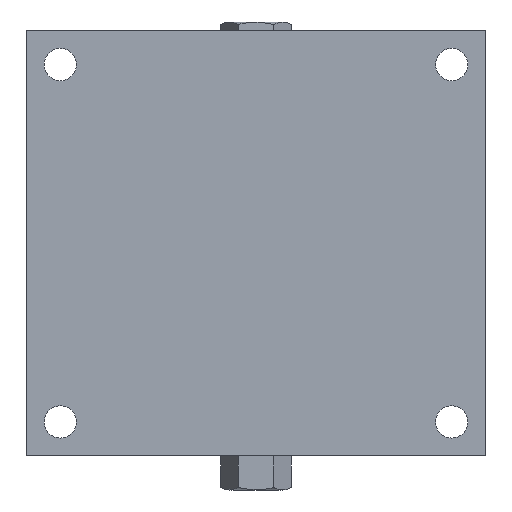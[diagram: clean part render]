
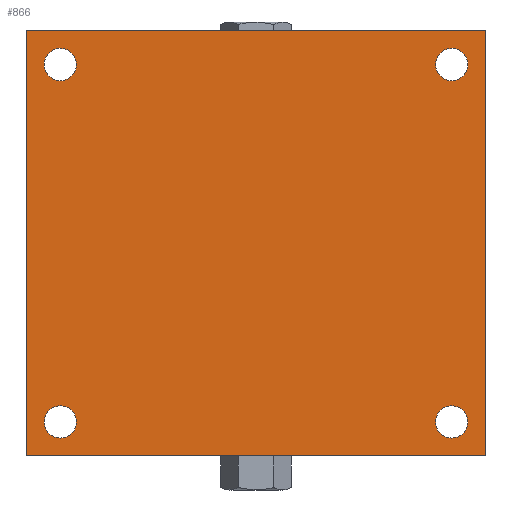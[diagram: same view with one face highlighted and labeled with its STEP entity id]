
A CAD part, front view. The second image highlights one B-rep face of the part: STEP entity #866.
In plain terms, the highlighted planar face has unit normal (0, -1, 0) as drawn and (0, 0, 1) by its records, which use the part's own axes.
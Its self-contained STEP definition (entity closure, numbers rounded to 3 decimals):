
#617=CARTESIAN_POINT('',(-90.07,161.926,20.));
#618=DIRECTION('',(0.,0.,-1.));
#619=DIRECTION('',(1.,0.,0.));
#620=AXIS2_PLACEMENT_3D('',#617,#618,#619);
#622=CARTESIAN_POINT('',(-90.07,161.926,20.));
#623=DIRECTION('',(0.,0.,-1.));
#624=DIRECTION('',(-1.,0.,0.));
#625=AXIS2_PLACEMENT_3D('',#622,#623,#624);
#627=CARTESIAN_POINT('',(139.93,161.926,20.));
#628=DIRECTION('',(0.,0.,-1.));
#629=DIRECTION('',(1.,0.,0.));
#630=AXIS2_PLACEMENT_3D('',#627,#628,#629);
#632=CARTESIAN_POINT('',(139.93,161.926,20.));
#633=DIRECTION('',(0.,0.,-1.));
#634=DIRECTION('',(-1.,0.,0.));
#635=AXIS2_PLACEMENT_3D('',#632,#633,#634);
#637=CARTESIAN_POINT('',(-90.07,-48.074,20.));
#638=DIRECTION('',(0.,0.,-1.));
#639=DIRECTION('',(1.,0.,0.));
#640=AXIS2_PLACEMENT_3D('',#637,#638,#639);
#642=CARTESIAN_POINT('',(-90.07,-48.074,20.));
#643=DIRECTION('',(0.,0.,-1.));
#644=DIRECTION('',(-1.,0.,0.));
#645=AXIS2_PLACEMENT_3D('',#642,#643,#644);
#647=CARTESIAN_POINT('',(139.93,-48.074,20.));
#648=DIRECTION('',(0.,0.,-1.));
#649=DIRECTION('',(1.,0.,0.));
#650=AXIS2_PLACEMENT_3D('',#647,#648,#649);
#652=CARTESIAN_POINT('',(139.93,-48.074,20.));
#653=DIRECTION('',(0.,0.,-1.));
#654=DIRECTION('',(-1.,0.,0.));
#655=AXIS2_PLACEMENT_3D('',#652,#653,#654);
#657=DIRECTION('',(0.,-1.,0.));
#658=VECTOR('',#657,250.);
#659=CARTESIAN_POINT('',(-110.07,181.926,20.));
#660=LINE('',#659,#658);
#661=DIRECTION('',(-1.,0.,0.));
#662=VECTOR('',#661,270.);
#663=CARTESIAN_POINT('',(159.93,181.926,20.));
#664=LINE('',#663,#662);
#665=DIRECTION('',(0.,1.,0.));
#666=VECTOR('',#665,250.);
#667=CARTESIAN_POINT('',(159.93,-68.074,20.));
#668=LINE('',#667,#666);
#669=DIRECTION('',(1.,0.,0.));
#670=VECTOR('',#669,270.);
#671=CARTESIAN_POINT('',(-110.07,-68.074,20.));
#672=LINE('',#671,#670);
#737=CARTESIAN_POINT('',(-80.57,161.926,20.));
#738=CARTESIAN_POINT('',(-99.57,161.926,20.));
#739=VERTEX_POINT('',#737);
#740=VERTEX_POINT('',#738);
#741=CARTESIAN_POINT('',(149.43,161.926,20.));
#742=CARTESIAN_POINT('',(130.43,161.926,20.));
#743=VERTEX_POINT('',#741);
#744=VERTEX_POINT('',#742);
#745=CARTESIAN_POINT('',(-80.57,-48.074,20.));
#746=CARTESIAN_POINT('',(-99.57,-48.074,20.));
#747=VERTEX_POINT('',#745);
#748=VERTEX_POINT('',#746);
#749=CARTESIAN_POINT('',(149.43,-48.074,20.));
#750=CARTESIAN_POINT('',(130.43,-48.074,20.));
#751=VERTEX_POINT('',#749);
#752=VERTEX_POINT('',#750);
#753=CARTESIAN_POINT('',(-110.07,181.926,20.));
#754=CARTESIAN_POINT('',(-110.07,-68.074,20.));
#755=VERTEX_POINT('',#753);
#756=VERTEX_POINT('',#754);
#757=CARTESIAN_POINT('',(159.93,-68.074,20.));
#758=VERTEX_POINT('',#757);
#759=CARTESIAN_POINT('',(159.93,181.926,20.));
#760=VERTEX_POINT('',#759);
#829=CARTESIAN_POINT('',(0.,0.,20.));
#830=DIRECTION('',(0.,0.,1.));
#831=DIRECTION('',(1.,0.,0.));
#832=AXIS2_PLACEMENT_3D('',#829,#830,#831);
#833=PLANE('',#832);
#835=ORIENTED_EDGE('',*,*,#834,.F.);
#837=ORIENTED_EDGE('',*,*,#836,.F.);
#839=ORIENTED_EDGE('',*,*,#838,.F.);
#841=ORIENTED_EDGE('',*,*,#840,.F.);
#842=EDGE_LOOP('',(#835,#837,#839,#841));
#843=FACE_OUTER_BOUND('',#842,.F.);
#845=ORIENTED_EDGE('',*,*,#844,.F.);
#847=ORIENTED_EDGE('',*,*,#846,.F.);
#848=EDGE_LOOP('',(#845,#847));
#849=FACE_BOUND('',#848,.F.);
#851=ORIENTED_EDGE('',*,*,#850,.F.);
#853=ORIENTED_EDGE('',*,*,#852,.F.);
#854=EDGE_LOOP('',(#851,#853));
#855=FACE_BOUND('',#854,.F.);
#857=ORIENTED_EDGE('',*,*,#856,.F.);
#859=ORIENTED_EDGE('',*,*,#858,.F.);
#860=EDGE_LOOP('',(#857,#859));
#861=FACE_BOUND('',#860,.F.);
#862=ORIENTED_EDGE('',*,*,#809,.F.);
#863=ORIENTED_EDGE('',*,*,#823,.F.);
#864=EDGE_LOOP('',(#862,#863));
#865=FACE_BOUND('',#864,.F.);
#621=CIRCLE('',#620,9.5);
#626=CIRCLE('',#625,9.5);
#631=CIRCLE('',#630,9.5);
#636=CIRCLE('',#635,9.5);
#641=CIRCLE('',#640,9.5);
#646=CIRCLE('',#645,9.5);
#651=CIRCLE('',#650,9.5);
#656=CIRCLE('',#655,9.5);
#809=EDGE_CURVE('',#739,#740,#621,.T.);
#823=EDGE_CURVE('',#740,#739,#626,.T.);
#834=EDGE_CURVE('',#755,#756,#660,.T.);
#836=EDGE_CURVE('',#760,#755,#664,.T.);
#838=EDGE_CURVE('',#758,#760,#668,.T.);
#840=EDGE_CURVE('',#756,#758,#672,.T.);
#844=EDGE_CURVE('',#743,#744,#631,.T.);
#846=EDGE_CURVE('',#744,#743,#636,.T.);
#850=EDGE_CURVE('',#747,#748,#641,.T.);
#852=EDGE_CURVE('',#748,#747,#646,.T.);
#856=EDGE_CURVE('',#751,#752,#651,.T.);
#858=EDGE_CURVE('',#752,#751,#656,.T.);
#866=ADVANCED_FACE('',(#843,#849,#855,#861,#865),#833,.T.);
